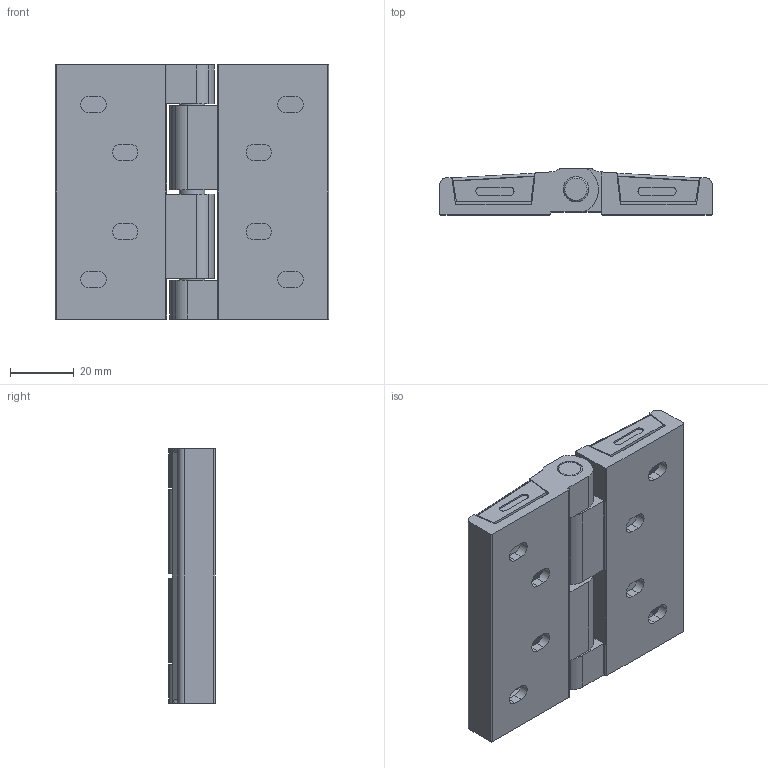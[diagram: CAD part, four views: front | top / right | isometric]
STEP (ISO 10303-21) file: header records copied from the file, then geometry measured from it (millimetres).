
FILE_DESCRIPTION(/* description */ ('STEP AP203'),/* implementation_level */ '2;1');
FILE_NAME(/* name */ 'HFR67-86',/* time_stamp */ '2023-12-06T02:01:18+01:00',/* author */ ('License CC BY-ND 4.0'),/* organization */ ('CADENAS'),/* preprocessor_version */ 'ST-DEVELOPER v19.3',/* originating_system */ 'PARTsolutions',/* authorisation */ ' ');
FILE_SCHEMA (('CONFIG_CONTROL_DESIGN'));
Length unit declared in the file: millimetre
Products named in the file (4): HFR67-86; HFR67-86-003; HFR67-86-002; HFR67-86-001
Assembly tree (5 placements, depth 2):
  HFR67-86
    HFR67-86-003
    HFR67-86-002  x2
    HFR67-86-001  x2
Bounding box: 86 x 14.5 x 80 mm (x, y, z)
Volume: 52440 mm3; surface area: 37707.6 mm2
Topology: 5 solids, 5 shells, 263 faces, 719 edges, 480 vertices
Faces by surface type: plane 158, cylinder 103, cone 2
Full cylindrical faces by diameter (mm): 8 x5
Entity records: 4346 total; most frequent: DIRECTION 749, CARTESIAN_POINT 736, ORIENTED_EDGE 712, EDGE_CURVE 356, AXIS2_PLACEMENT_3D 253, LINE 243, VECTOR 243, VERTEX_POINT 240
